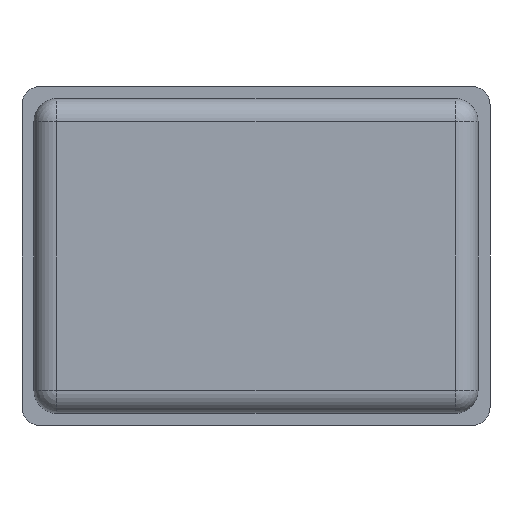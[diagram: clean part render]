
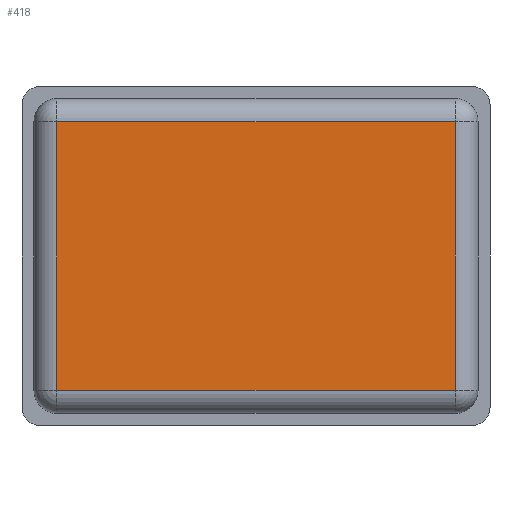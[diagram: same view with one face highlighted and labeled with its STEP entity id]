
A CAD part, front view. The second image highlights one B-rep face of the part: STEP entity #418.
In plain terms, the highlighted planar face has unit normal (0, -1, 0).
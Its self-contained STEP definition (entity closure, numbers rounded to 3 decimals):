
#28 = FACE_OUTER_BOUND ( 'NONE', #910, .T. ) ;
#146 = CARTESIAN_POINT ( 'NONE',  ( -21.7, -17.4, 14.65 ) ) ;
#193 = ORIENTED_EDGE ( 'NONE', *, *, #855, .T. ) ;
#278 = ORIENTED_EDGE ( 'NONE', *, *, #704, .T. ) ;
#316 = VERTEX_POINT ( 'NONE', #146 ) ;
#331 = ORIENTED_EDGE ( 'NONE', *, *, #607, .T. ) ;
#333 = CARTESIAN_POINT ( 'NONE',  ( -21.7, -17.4, -14.65 ) ) ;
#387 = LINE ( 'NONE', #1784, #392 ) ;
#392 = VECTOR ( 'NONE', #1419, 1000. ) ;
#398 = AXIS2_PLACEMENT_3D ( 'NONE', #1256, #1261, #1207 ) ;
#418 = ADVANCED_FACE ( 'NONE', ( #28 ), #1285, .F. ) ;
#554 = CARTESIAN_POINT ( 'NONE',  ( 21.7, -17.4, -14.65 ) ) ;
#587 = DIRECTION ( 'NONE',  ( 1., 0., 0. ) ) ;
#600 = DIRECTION ( 'NONE',  ( -1., 0., 0. ) ) ;
#606 = CARTESIAN_POINT ( 'NONE',  ( -21.7, -17.4, 14.65 ) ) ;
#607 = EDGE_CURVE ( 'NONE', #316, #1431, #1700, .T. ) ;
#704 = EDGE_CURVE ( 'NONE', #1102, #316, #1407, .T. ) ;
#855 = EDGE_CURVE ( 'NONE', #1869, #1102, #387, .T. ) ;
#910 = EDGE_LOOP ( 'NONE', ( #1275, #193, #278, #331 ) ) ;
#940 = EDGE_CURVE ( 'NONE', #1431, #1869, #1859, .T. ) ;
#1026 = CARTESIAN_POINT ( 'NONE',  ( 21.7, -17.4, -14.65 ) ) ;
#1102 = VERTEX_POINT ( 'NONE', #1636 ) ;
#1207 = DIRECTION ( 'NONE',  ( 0., 0., 1. ) ) ;
#1256 = CARTESIAN_POINT ( 'NONE',  ( 0., -17.4, 0. ) ) ;
#1261 = DIRECTION ( 'NONE',  ( 0., 1., 0. ) ) ;
#1275 = ORIENTED_EDGE ( 'NONE', *, *, #940, .T. ) ;
#1285 = PLANE ( 'NONE',  #398 ) ;
#1355 = VECTOR ( 'NONE', #600, 1000. ) ;
#1407 = LINE ( 'NONE', #606, #1355 ) ;
#1419 = DIRECTION ( 'NONE',  ( 0., 0., 1. ) ) ;
#1431 = VERTEX_POINT ( 'NONE', #333 ) ;
#1488 = DIRECTION ( 'NONE',  ( 0., 0., -1. ) ) ;
#1636 = CARTESIAN_POINT ( 'NONE',  ( 21.7, -17.4, 14.65 ) ) ;
#1654 = CARTESIAN_POINT ( 'NONE',  ( -21.7, -17.4, -14.65 ) ) ;
#1696 = VECTOR ( 'NONE', #1488, 1000. ) ;
#1700 = LINE ( 'NONE', #1654, #1696 ) ;
#1784 = CARTESIAN_POINT ( 'NONE',  ( 21.7, -17.4, 14.65 ) ) ;
#1856 = VECTOR ( 'NONE', #587, 1000. ) ;
#1859 = LINE ( 'NONE', #554, #1856 ) ;
#1869 = VERTEX_POINT ( 'NONE', #1026 ) ;
